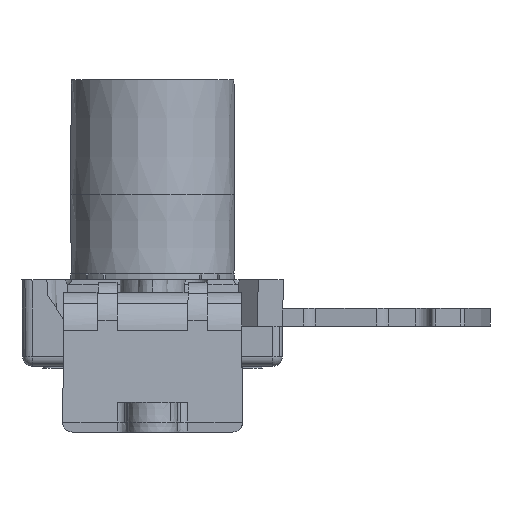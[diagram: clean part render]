
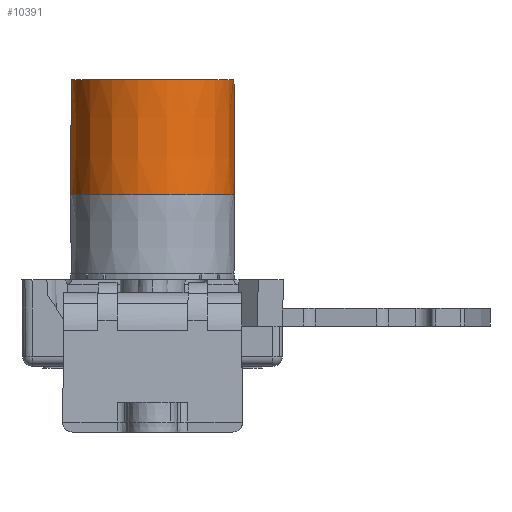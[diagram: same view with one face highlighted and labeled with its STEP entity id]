
A CAD part, left-side view. The second image highlights one B-rep face of the part: STEP entity #10391.
In plain terms, the highlighted conical face has half-angle 0.249 degrees and reference radius 8.2 mm.
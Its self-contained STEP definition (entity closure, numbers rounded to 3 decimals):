
#89 = EDGE_CURVE ( 'NONE', #4000, #20899, #8990, .T. ) ;
#357 = AXIS2_PLACEMENT_3D ( 'NONE', #22369, #3546, #10390 ) ;
#415 = CARTESIAN_POINT ( 'NONE',  ( 0., 0., 17.175 ) ) ;
#810 = CARTESIAN_POINT ( 'NONE',  ( 0., 8.2, 17.175 ) ) ;
#1510 = ORIENTED_EDGE ( 'NONE', *, *, #89, .T. ) ;
#1740 = ORIENTED_EDGE ( 'NONE', *, *, #10497, .T. ) ;
#2086 = LINE ( 'NONE', #15999, #16188 ) ;
#2695 = EDGE_CURVE ( 'NONE', #19949, #17005, #2086, .T. ) ;
#3546 = DIRECTION ( 'NONE',  ( 0., 0., 1. ) ) ;
#3937 = DIRECTION ( 'NONE',  ( 0., -1., 0. ) ) ;
#4000 = VERTEX_POINT ( 'NONE', #11653 ) ;
#4266 = AXIS2_PLACEMENT_3D ( 'NONE', #15366, #17187, #6816 ) ;
#5595 = DIRECTION ( 'NONE',  ( 0., -0.004, -1. ) ) ;
#5665 = CARTESIAN_POINT ( 'NONE',  ( 0., 8.2, 17.175 ) ) ;
#5807 = ORIENTED_EDGE ( 'NONE', *, *, #9547, .F. ) ;
#5887 = DIRECTION ( 'NONE',  ( 0., 0.004, -1. ) ) ;
#6438 = CONICAL_SURFACE ( 'NONE', #4266, 8.2, 0.004 ) ;
#6816 = DIRECTION ( 'NONE',  ( 0., -1., 0. ) ) ;
#8971 = CARTESIAN_POINT ( 'NONE',  ( 0., -8.15, 28.675 ) ) ;
#8990 = LINE ( 'NONE', #5665, #14951 ) ;
#9083 = DIRECTION ( 'NONE',  ( 0., 0., 1. ) ) ;
#9547 = EDGE_CURVE ( 'NONE', #4000, #19949, #10196, .T. ) ;
#9724 = AXIS2_PLACEMENT_3D ( 'NONE', #415, #9083, #3937 ) ;
#10128 = FACE_OUTER_BOUND ( 'NONE', #14370, .T. ) ;
#10196 = CIRCLE ( 'NONE', #357, 8.15 ) ;
#10390 = DIRECTION ( 'NONE',  ( 0., -1., 0. ) ) ;
#10391 = ADVANCED_FACE ( 'NONE', ( #10128 ), #6438, .T. ) ;
#10497 = EDGE_CURVE ( 'NONE', #20899, #17005, #16638, .T. ) ;
#11653 = CARTESIAN_POINT ( 'NONE',  ( 0., 8.15, 28.675 ) ) ;
#13498 = CARTESIAN_POINT ( 'NONE',  ( 0., -8.2, 17.175 ) ) ;
#14370 = EDGE_LOOP ( 'NONE', ( #5807, #1510, #1740, #18718 ) ) ;
#14951 = VECTOR ( 'NONE', #5887, 1000. ) ;
#15366 = CARTESIAN_POINT ( 'NONE',  ( 0., 0., 17.175 ) ) ;
#15999 = CARTESIAN_POINT ( 'NONE',  ( 0., -8.2, 17.175 ) ) ;
#16188 = VECTOR ( 'NONE', #5595, 1000. ) ;
#16638 = CIRCLE ( 'NONE', #9724, 8.2 ) ;
#17005 = VERTEX_POINT ( 'NONE', #13498 ) ;
#17187 = DIRECTION ( 'NONE',  ( 0., 0., -1. ) ) ;
#18718 = ORIENTED_EDGE ( 'NONE', *, *, #2695, .F. ) ;
#19949 = VERTEX_POINT ( 'NONE', #8971 ) ;
#20899 = VERTEX_POINT ( 'NONE', #810 ) ;
#22369 = CARTESIAN_POINT ( 'NONE',  ( 0., 0., 28.675 ) ) ;
